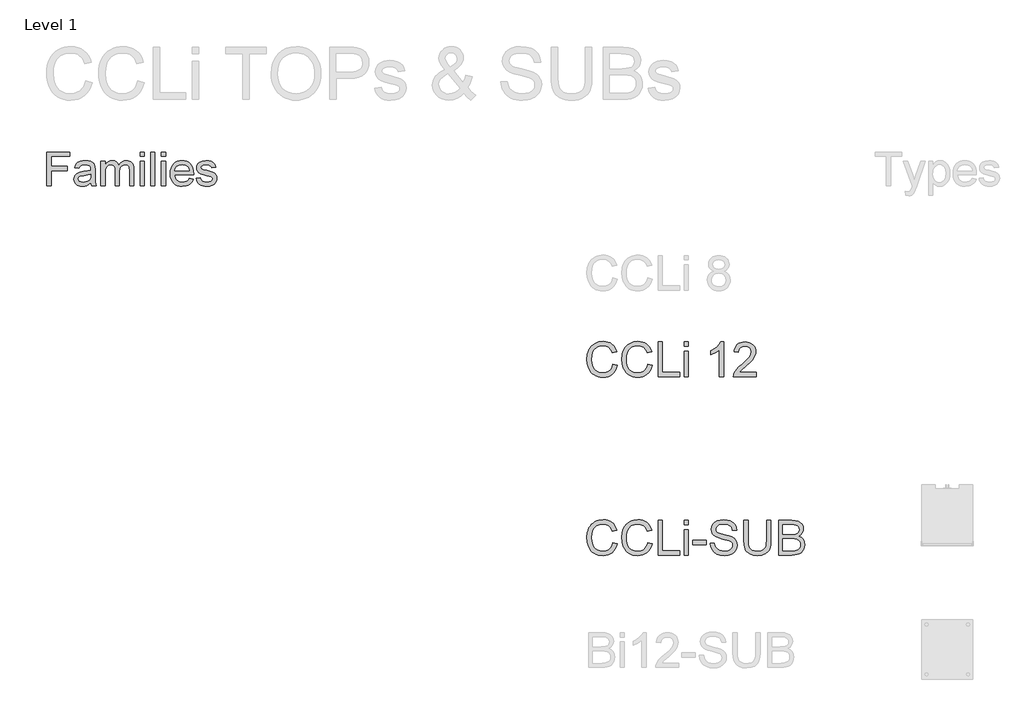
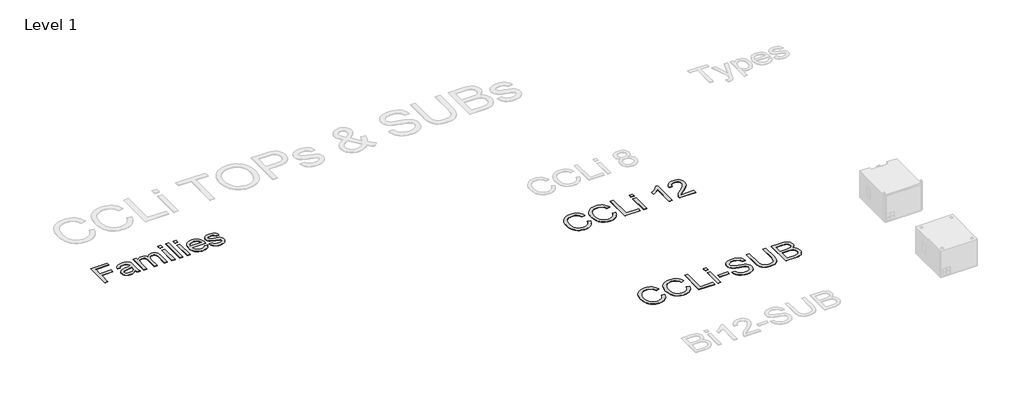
# One storey, part 29 of 31: 3 proxies.
"""IFC4 building model written with IfcOpenShell, lengths in millimetres."""

from ifc_helpers import new_model, si_unit, origin, origin_with_axes, place, context, project, spatial, polyline, outline, extrude, element, save

model = new_model("IFC4")

# Units and contexts
model_context = context("Model", 3, world=origin())
ifc_project = project(units=[si_unit("LENGTHUNIT", "METRE", prefix="MILLI")], contexts=[model_context])

# Site, building, storey
site = spatial("IfcSite", under=ifc_project)
building = spatial("IfcBuilding", under=site)
storey = spatial("IfcBuildingStorey", under=building, Name="Level 1", Elevation=0.0)

# Proxies
placement = place(None, origin())
element("IfcBuildingElementProxy", 1, Name="400mm Arial", ObjectType="400mm Arial", at=placement, inside=storey, context=model_context, shape_type="SweptSolid", body=[
    extrude(outline(polyline([(1556.1023034, 17351.3054836), (1556.1023034, 17743.0630593), (1819.3144246, 17743.0630593), (1819.3144246, 17694.0933624), (1605.0720003, 17694.0933624), (1605.0720003, 17577.7903321), (1788.708364, 17577.7903321), (1788.708364, 17528.8206351), (1605.0720003, 17528.8206351), (1605.0720003, 17351.3054836), (1556.1023034, 17351.3054836)])), origin_with_axes(), (0.0, 0.0, 1.0), 5.0),
    extrude(outline(polyline([(2064.1629094, 17388.0327563), (2040.7660107, 17367.97144), (2016.6756935, 17354.8443093), (1991.3420051, 17347.5992809), (1964.2149928, 17345.1842715), (1942.4111634, 17346.6368638), (1923.2913422, 17350.9946408), (1906.855529, 17358.2576024), (1893.1037238, 17368.4257487), (1882.2451478, 17380.8534831), (1874.4890221, 17394.895209), (1869.8353467, 17410.5509263), (1868.2841215, 17427.8206351), (1870.6273981, 17448.1210612), (1877.6572276, 17466.5564305), (1888.5008592, 17482.3376805), (1902.285542, 17494.6757487), (1936.5738943, 17510.7439305), (1978.9441594, 17518.1085139), (2029.0137617, 17525.855673), (2063.8759776, 17534.9418472), (2064.1629094, 17545.8452563), (2060.7914606, 17567.6998965), (2050.677114, 17581.9986654), (2028.0573223, 17592.6151427), (1996.5426443, 17596.1539684), (1967.3712428, 17593.7987364), (1946.9990837, 17586.7330404), (1933.1068015, 17573.6656872), (1923.3750306, 17553.3054836), (1874.4053337, 17559.4266957), (1882.9056888, 17586.2069987), (1895.5904662, 17607.2486654), (1913.6432598, 17623.3407582), (1938.2476632, 17635.2723396), (1968.3396376, 17642.660834), (2002.8551443, 17645.1236654), (2035.9599028, 17642.9477658), (2062.2022087, 17636.4200669), (2081.9885486, 17626.6046076), (2095.7254094, 17614.5654268), (2104.8354946, 17599.6808387), (2110.7415079, 17581.3291578), (2113.1326064, 17538.480673), (2113.1326064, 17477.5554836), (2115.6193488, 17392.4801995), (2125.3750306, 17351.3054836), (2076.4053337, 17351.3054836), (2068.5625306, 17368.3301048), (2064.1629094, 17388.0327563)]), holes=[polyline([(2064.1629094, 17485.9721502), (2031.2613943, 17477.8185044), (1985.1610155, 17470.9560518), (1943.0298602, 17463.0176048), (1932.0666736, 17457.5898112), (1923.9488943, 17450.105673), (1918.9275875, 17441.1390536), (1917.2538185, 17431.2638169), (1920.9002437, 17416.7020271), (1931.8395193, 17404.7704457), (1949.8325354, 17396.8080877), (1974.6401821, 17394.1539684), (2000.9422655, 17397.0830641), (2024.1837428, 17405.870351), (2043.0255988, 17418.8181493), (2056.1288185, 17434.228779), (2061.9391878, 17450.105673), (2063.8759776, 17472.103779), (2064.1629094, 17485.9721502)])]), origin_with_axes(), (0.0, 0.0, 1.0), 5.0),
    extrude(outline(polyline([(2180.4659397, 17351.3054836), (2180.4659397, 17639.0024533), (2229.4356367, 17639.0024533), (2229.4356367, 17591.6587033), (2244.1648034, 17613.405744), (2263.1023034, 17630.4423207), (2285.6025401, 17641.4533292), (2311.019917, 17645.1236654), (2338.2545287, 17641.3815963), (2360.0852579, 17630.1553889), (2376.3925496, 17612.1862838), (2387.0568488, 17588.2155215), (2404.906399, 17613.1128344), (2425.2666026, 17630.8966294), (2448.1374596, 17641.5669064), (2473.51897, 17645.1236654), (2493.1229887, 17643.6441732), (2510.3299312, 17639.2056966), (2525.1397974, 17631.8082357), (2537.5525875, 17621.4517904), (2547.3650579, 17608.0168058), (2554.3739653, 17591.3837269), (2558.5793098, 17571.5525539), (2559.9810912, 17548.5232866), (2559.9810912, 17351.3054836), (2511.0113943, 17351.3054836), (2511.0113943, 17527.4816199), (2506.4683071, 17568.369404), (2500.0840742, 17579.6434334), (2490.0175496, 17588.5024533), (2477.0697513, 17594.2410896), (2462.0416973, 17596.1539684), (2435.5124596, 17591.2522165), (2413.8849738, 17576.5469608), (2405.495207, 17565.2669537), (2399.5025164, 17551.03394), (2394.708364, 17513.7088927), (2394.708364, 17351.3054836), (2345.738667, 17351.3054836), (2345.738667, 17532.9333245), (2342.9052153, 17560.6222449), (2334.4048602, 17580.3727184), (2319.4485392, 17592.2086559), (2297.2471897, 17596.1539684), (2278.3814227, 17593.5237601), (2260.9981367, 17585.6331351), (2246.6515458, 17572.6733813), (2236.895864, 17554.8357866), (2231.3006935, 17530.0879173), (2229.4356367, 17496.3973396), (2229.4356367, 17351.3054836), (2180.4659397, 17351.3054836)])), origin_with_axes(), (0.0, 0.0, 1.0), 5.0),
    extrude(outline(polyline([(2633.4356367, 17694.0933624), (2633.4356367, 17743.0630593), (2682.4053337, 17743.0630593), (2682.4053337, 17694.0933624), (2633.4356367, 17694.0933624)])), origin_with_axes(), (0.0, 0.0, 1.0), 5.0),
    extrude(outline(polyline([(2633.4356367, 17351.3054836), (2633.4356367, 17639.0024533), (2682.4053337, 17639.0024533), (2682.4053337, 17351.3054836), (2633.4356367, 17351.3054836)])), origin_with_axes(), (0.0, 0.0, 1.0), 5.0),
    extrude(outline(polyline([(2755.8598791, 17351.3054836), (2755.8598791, 17743.0630593), (2804.8295761, 17743.0630593), (2804.8295761, 17351.3054836), (2755.8598791, 17351.3054836)])), origin_with_axes(), (0.0, 0.0, 1.0), 5.0),
    extrude(outline(polyline([(2878.2841215, 17694.0933624), (2878.2841215, 17743.0630593), (2927.2538185, 17743.0630593), (2927.2538185, 17694.0933624), (2878.2841215, 17694.0933624)])), origin_with_axes(), (0.0, 0.0, 1.0), 5.0),
    extrude(outline(polyline([(2878.2841215, 17351.3054836), (2878.2841215, 17639.0024533), (2927.2538185, 17639.0024533), (2927.2538185, 17351.3054836), (2878.2841215, 17351.3054836)])), origin_with_axes(), (0.0, 0.0, 1.0), 5.0),
    extrude(outline(polyline([(3202.1345003, 17437.0024533), (3250.1477579, 17430.8812411), (3242.7861634, 17411.6508316), (3232.8481604, 17394.7039211), (3220.3337487, 17380.0405096), (3205.2429284, 17367.6605972), (3187.7311208, 17357.8272047), (3167.9537475, 17350.8033529), (3121.6023034, 17345.1842715), (3091.2174194, 17347.6082475), (3064.1442068, 17354.8801758), (3040.3826656, 17367.0000563), (3019.9327958, 17383.9678889), (3003.488016, 17405.3114317), (2991.7417446, 17430.5584429), (2984.6939819, 17459.7089223), (2982.3447276, 17492.7628699), (2984.7178929, 17526.937645), (2991.8373886, 17557.0595082), (3003.7032148, 17583.1284594), (3020.3153715, 17605.1444987), (3040.7114416, 17622.6353841), (3063.9290079, 17635.1288737), (3089.9680704, 17642.6249675), (3118.8286291, 17645.1236654), (3146.7596483, 17642.6309452), (3172.0186149, 17635.1527847), (3194.605529, 17622.6891839), (3214.5203905, 17605.2401427), (3230.7768713, 17583.2719253), (3242.3886433, 17557.2507961), (3249.3557065, 17527.1767549), (3251.6780609, 17493.0498018), (3251.3911291, 17479.8509381), (3031.3144246, 17479.8509381), (3034.1508652, 17460.3096858), (3039.7908687, 17443.1953983), (3048.2344352, 17428.5080759), (3059.4815647, 17416.2477184), (3087.8997702, 17399.6774059), (3122.5587428, 17394.1539684), (3148.6217162, 17396.7124438), (3170.5720003, 17404.3878699), (3188.409595, 17417.6584665), (3202.1345003, 17437.0024533)]), holes=[polyline([(3031.3144246, 17528.8206351), (3202.708364, 17528.8206351), (3196.0850212, 17554.6923207), (3183.1013564, 17573.199423), (3169.7470714, 17583.2420366), (3154.5516405, 17590.4153321), (3118.6373412, 17596.1539684), (3085.6282267, 17591.5750148), (3058.3338375, 17577.838154), (3039.360471, 17556.4258671), (3031.3144246, 17528.8206351)])]), origin_with_axes(), (0.0, 0.0, 1.0), 5.0),
    extrude(outline(polyline([(3282.2841215, 17437.0024533), (3331.2538185, 17443.1236654), (3338.9770666, 17422.1776427), (3353.9214321, 17406.7789684), (3376.182559, 17397.3102184), (3405.8560912, 17394.1539684), (3435.1709587, 17397.0471976), (3455.7822276, 17405.7268851), (3467.9768299, 17418.3040631), (3472.0416973, 17432.8897639), (3467.9529189, 17445.371298), (3455.6865837, 17454.8878699), (3405.2822276, 17468.8518851), (3331.5407503, 17492.8106919), (3312.8782267, 17504.8498728), (3299.3565647, 17520.7865442), (3291.1431414, 17539.6044893), (3288.4053337, 17560.2874911), (3290.6051443, 17579.2608576), (3297.2045761, 17596.775654), (3307.6058545, 17612.1384618), (3321.2112049, 17624.6558624), (3352.3433071, 17639.1459192), (3394.4744625, 17645.1236654), (3426.3478053, 17642.7206114), (3454.0606367, 17635.5114495), (3476.3456746, 17624.2015536), (3491.9356367, 17609.496298), (3502.2651821, 17590.3077326), (3508.76897, 17565.5479078), (3459.7992731, 17559.4266957), (3453.6182835, 17574.8373254), (3441.3878147, 17586.4461086), (3422.9883119, 17593.7270035), (3398.30022, 17596.1539684), (3370.1809018, 17593.8346029), (3351.4346897, 17586.8765063), (3340.8899454, 17576.8338927), (3337.3750306, 17565.260976), (3343.2093109, 17551.010029), (3361.4773034, 17540.2022639), (3403.6562806, 17529.7770745), (3475.5327011, 17506.7268851), (3494.5180231, 17495.7039211), (3508.9124359, 17480.6160896), (3517.9866547, 17461.4155688), (3521.0113943, 17438.0545366), (3517.460613, 17413.9044419), (3506.8082693, 17391.1890063), (3489.4608498, 17371.6895982), (3465.8248412, 17357.1875858), (3437.2751253, 17348.1851), (3405.1865837, 17345.1842715), (3378.8307006, 17346.630886), (3355.8104, 17350.9707298), (3336.1256817, 17358.2038027), (3319.7765458, 17368.3301048), (3306.4222607, 17381.3018141), (3295.722095, 17397.0711086), (3287.6760486, 17415.6379883), (3282.2841215, 17437.0024533)])), origin_with_axes(), (0.0, 0.0, 1.0), 5.0),
])
element("IfcBuildingElementProxy", 2, Name="400mm Arial", ObjectType="400mm Arial", at=placement, inside=storey, context=model_context, shape_type="SweptSolid", body=[
    extrude(outline(polyline([(8103.8257106, 15286.7361061), (8154.0538657, 15273.7866599), (8144.1149204, 15242.5504128), (8130.8773, 15215.2566344), (8114.3410043, 15191.9053248), (8094.5060334, 15172.4964839), (8071.819977, 15157.2385781), (8046.730425, 15146.340074), (8019.2373772, 15139.8009715), (7989.3408337, 15137.6212707), (7958.7115919, 15139.2706083), (7931.0805884, 15144.2186212), (7906.4478231, 15152.4653092), (7884.8132961, 15164.0106725), (7865.8796361, 15178.6830327), (7849.3494718, 15196.3107117), (7835.2228032, 15216.8937093), (7823.4996303, 15240.4320256), (7807.7174927, 15292.3033869), (7802.4567802, 15347.8535682), (7808.4042057, 15406.4449073), (7815.8384877, 15432.7423386), (7826.2464825, 15457.0409444), (7839.3951982, 15478.9391202), (7855.0516427, 15498.0352614), (7873.2158162, 15514.3293681), (7893.8877187, 15527.8214403), (7916.3653086, 15538.4011133), (7939.9465445, 15545.9580226), (7990.4199542, 15552.0035501), (8019.1484724, 15550.0476441), (8045.4918889, 15544.1799263), (8069.4502038, 15534.4003966), (8091.0234172, 15520.709055), (8109.8559096, 15503.4676522), (8125.592062, 15483.0379387), (8138.2318742, 15459.4199146), (8147.7753463, 15432.6135799), (8097.5471912, 15420.6451523), (8080.1341101, 15457.2739363), (8056.3444078, 15482.4002766), (8025.8837786, 15496.9316154), (7988.4579169, 15501.775395), (7945.3176216, 15496.4043179), (7926.6353476, 15489.6904715), (7909.8783227, 15480.2910865), (7882.9861489, 15455.127958), (7865.4872287, 15422.6071896), (7855.8855086, 15385.8435156), (7852.6849352, 15347.9516701), (7856.4741198, 15301.5494878), (7867.8416734, 15261.4258248), (7887.2167918, 15229.1135229), (7915.0286707, 15206.1454237), (7948.3710422, 15192.4234253), (7984.3376386, 15187.8494258), (8006.1745007, 15189.4067929), (8026.2639233, 15194.0788942), (8044.6059064, 15201.8657298), (8061.2004501, 15212.7672996), (8075.6551468, 15226.7345527), (8087.5775892, 15243.7184381), (8096.9677771, 15263.7189559), (8103.8257106, 15286.7361061)])), origin_with_axes(), (0.0, 0.0, 1.0), 5.0),
    extrude(outline(polyline([(8505.6509512, 15286.7361061), (8555.8791063, 15273.7866599), (8545.940161, 15242.5504128), (8532.7025406, 15215.2566344), (8516.1662449, 15191.9053248), (8496.331274, 15172.4964839), (8473.6452176, 15157.2385781), (8448.5556656, 15146.340074), (8421.0626178, 15139.8009715), (8391.1660743, 15137.6212707), (8360.5368325, 15139.2706083), (8332.905829, 15144.2186212), (8308.2730637, 15152.4653092), (8286.6385367, 15164.0106725), (8267.7048767, 15178.6830327), (8251.1747124, 15196.3107117), (8237.0480438, 15216.8937093), (8225.3248709, 15240.4320256), (8209.5427333, 15292.3033869), (8204.2820208, 15347.8535682), (8210.2294463, 15406.4449073), (8217.6637283, 15432.7423386), (8228.0717231, 15457.0409444), (8241.2204388, 15478.9391202), (8256.8768833, 15498.0352614), (8275.0410568, 15514.3293681), (8295.7129593, 15527.8214403), (8318.1905492, 15538.4011133), (8341.7717851, 15545.9580226), (8392.2451948, 15552.0035501), (8420.973713, 15550.0476441), (8447.3171295, 15544.1799263), (8471.2754444, 15534.4003966), (8492.8486578, 15520.709055), (8511.6811502, 15503.4676522), (8527.4173026, 15483.0379387), (8540.0571148, 15459.4199146), (8549.6005869, 15432.6135799), (8499.3724318, 15420.6451523), (8481.9593507, 15457.2739363), (8458.1696484, 15482.4002766), (8427.7090192, 15496.9316154), (8390.2831575, 15501.775395), (8347.1428622, 15496.4043179), (8328.4605882, 15489.6904715), (8311.7035633, 15480.2910865), (8284.8113895, 15455.127958), (8267.3124693, 15422.6071896), (8257.7107492, 15385.8435156), (8254.5101758, 15347.9516701), (8258.2993604, 15301.5494878), (8269.666914, 15261.4258248), (8289.0420324, 15229.1135229), (8316.8539113, 15206.1454237), (8350.1962828, 15192.4234253), (8386.1628792, 15187.8494258), (8407.9997413, 15189.4067929), (8428.0891639, 15194.0788942), (8446.431147, 15201.8657298), (8463.0256907, 15212.7672996), (8477.4803874, 15226.7345527), (8489.4028297, 15243.7184381), (8498.7930177, 15263.7189559), (8505.6509512, 15286.7361061)])), origin_with_axes(), (0.0, 0.0, 1.0), 5.0),
    extrude(outline(polyline([(8624.9428195, 15143.8997901), (8624.9428195, 15545.7250307), (8675.1709746, 15545.7250307), (8675.1709746, 15194.1279452), (8876.0835949, 15194.1279452), (8876.0835949, 15143.8997901), (8624.9428195, 15143.8997901)])), origin_with_axes(), (0.0, 0.0, 1.0), 5.0),
    extrude(outline(polyline([(8926.31175, 15143.8997901), (8926.31175, 15438.9902012), (8976.539905, 15438.9902012), (8976.539905, 15143.8997901), (8926.31175, 15143.8997901)])), origin_with_axes(), (0.0, 0.0, 1.0), 5.0),
    extrude(outline(polyline([(8926.31175, 15495.4968756), (8926.31175, 15545.7250307), (8976.539905, 15545.7250307), (8976.539905, 15495.4968756), (8926.31175, 15495.4968756)])), origin_with_axes(), (0.0, 0.0, 1.0), 5.0),
    extrude(outline(polyline([(9384.643665, 15143.8997901), (9334.4155099, 15143.8997901), (9334.4155099, 15457.0409444), (9313.4462362, 15440.0815844), (9286.8361052, 15423.1467499), (9233.9591998, 15397.7874177), (9233.9591998, 15445.2687205), (9273.4084124, 15466.7285036), (9307.5846498, 15492.2595141), (9334.5258745, 15519.4092053), (9352.2700494, 15545.7250307), (9384.643665, 15545.7250307), (9384.643665, 15143.8997901)])), origin_with_axes(), (0.0, 0.0, 1.0), 5.0),
    extrude(outline(polyline([(9761.3548281, 15194.1279452), (9761.3548281, 15143.8997901), (9497.6570139, 15143.8997901), (9498.7606599, 15161.5826513), (9503.0526165, 15178.5297486), (9515.4502398, 15205.5936007), (9533.6113476, 15231.8481124), (9559.8658593, 15259.3288974), (9596.5436942, 15290.0715695), (9650.7327121, 15338.2150599), (9683.2166923, 15373.7524607), (9699.4402883, 15402.5944091), (9704.8481536, 15430.6515426), (9699.7345939, 15455.8024083), (9684.3939147, 15476.7103684), (9660.8126788, 15490.8002488), (9630.977449, 15495.4968756), (9599.6461657, 15490.9106134), (9575.3046404, 15477.1518268), (9559.5960792, 15455.2996363), (9554.1636884, 15426.4331624), (9503.9355333, 15432.7116818), (9508.2550811, 15458.6412311), (9516.1124274, 15481.2966306), (9527.5075722, 15500.6778804), (9542.4405155, 15516.7849804), (9560.5679008, 15529.4462524), (9581.5463716, 15538.4900181), (9605.3759278, 15543.9162775), (9632.0565695, 15545.7250307), (9658.9763345, 15543.7139425), (9682.9346494, 15537.6806777), (9703.9315143, 15527.6252365), (9721.9669291, 15513.5476188), (9736.4522827, 15496.490157), (9746.7989638, 15477.4951833), (9753.0069725, 15456.5626978), (9755.0763087, 15433.6927004), (9752.8444913, 15409.6700061), (9746.1490389, 15386.0642448), (9734.2664505, 15362.0538132), (9716.4732247, 15336.8171084), (9688.1095228, 15306.687573), (9644.5155064, 15267.9986498), (9586.7335077, 15219.6834811), (9564.0719768, 15194.1279452), (9761.3548281, 15194.1279452)])), origin_with_axes(), (0.0, 0.0, 1.0), 5.0),
])
element("IfcBuildingElementProxy", 3, Name="400mm Arial", ObjectType="400mm Arial", at=placement, inside=storey, context=model_context, shape_type="SweptSolid", body=[
    extrude(outline(polyline([(8103.8257106, 13223.865622), (8154.0538657, 13210.9161757), (8144.1149204, 13179.6799287), (8130.8773, 13152.3861503), (8114.3410043, 13129.0348407), (8094.5060334, 13109.6259997), (8071.819977, 13094.368094), (8046.730425, 13083.4695899), (8019.2373772, 13076.9304874), (7989.3408337, 13074.7507866), (7958.7115919, 13076.4001242), (7931.0805884, 13081.348137), (7906.4478231, 13089.5948251), (7884.8132961, 13101.1401884), (7865.8796361, 13115.8125486), (7849.3494718, 13133.4402275), (7835.2228032, 13154.0232252), (7823.4996303, 13177.5615415), (7807.7174927, 13229.4329028), (7802.4567802, 13284.9830841), (7808.4042057, 13343.5744232), (7815.8384877, 13369.8718545), (7826.2464825, 13394.1704603), (7839.3951982, 13416.068636), (7855.0516427, 13435.1647773), (7873.2158162, 13451.458884), (7893.8877187, 13464.9509561), (7916.3653086, 13475.5306292), (7939.9465445, 13483.0875385), (7990.4199542, 13489.133066), (8019.1484724, 13487.17716), (8045.4918889, 13481.3094422), (8069.4502038, 13471.5299125), (8091.0234172, 13457.8385709), (8109.8559096, 13440.5971681), (8125.592062, 13420.1674546), (8138.2318742, 13396.5494305), (8147.7753463, 13369.7430958), (8097.5471912, 13357.7746682), (8080.1341101, 13394.4034522), (8056.3444078, 13419.5297925), (8025.8837786, 13434.0611313), (7988.4579169, 13438.9049109), (7945.3176216, 13433.5338337), (7926.6353476, 13426.8199873), (7909.8783227, 13417.4206024), (7882.9861489, 13392.2574739), (7865.4872287, 13359.7367055), (7855.8855086, 13322.9730315), (7852.6849352, 13285.081186), (7856.4741198, 13238.6790036), (7867.8416734, 13198.5553407), (7887.2167918, 13166.2430388), (7915.0286707, 13143.2749396), (7948.3710422, 13129.5529411), (7984.3376386, 13124.9789417), (8006.1745007, 13126.5363088), (8026.2639233, 13131.2084101), (8044.6059064, 13138.9952457), (8061.2004501, 13149.8968155), (8075.6551468, 13163.8640685), (8087.5775892, 13180.847954), (8096.9677771, 13200.8484718), (8103.8257106, 13223.865622)])), origin_with_axes(), (0.0, 0.0, 1.0), 5.0),
    extrude(outline(polyline([(8505.6509512, 13223.865622), (8555.8791063, 13210.9161757), (8545.940161, 13179.6799287), (8532.7025406, 13152.3861503), (8516.1662449, 13129.0348407), (8496.331274, 13109.6259997), (8473.6452176, 13094.368094), (8448.5556656, 13083.4695899), (8421.0626178, 13076.9304874), (8391.1660743, 13074.7507866), (8360.5368325, 13076.4001242), (8332.905829, 13081.348137), (8308.2730637, 13089.5948251), (8286.6385367, 13101.1401884), (8267.7048767, 13115.8125486), (8251.1747124, 13133.4402275), (8237.0480438, 13154.0232252), (8225.3248709, 13177.5615415), (8209.5427333, 13229.4329028), (8204.2820208, 13284.9830841), (8210.2294463, 13343.5744232), (8217.6637283, 13369.8718545), (8228.0717231, 13394.1704603), (8241.2204388, 13416.068636), (8256.8768833, 13435.1647773), (8275.0410568, 13451.458884), (8295.7129593, 13464.9509561), (8318.1905492, 13475.5306292), (8341.7717851, 13483.0875385), (8392.2451948, 13489.133066), (8420.973713, 13487.17716), (8447.3171295, 13481.3094422), (8471.2754444, 13471.5299125), (8492.8486578, 13457.8385709), (8511.6811502, 13440.5971681), (8527.4173026, 13420.1674546), (8540.0571148, 13396.5494305), (8549.6005869, 13369.7430958), (8499.3724318, 13357.7746682), (8481.9593507, 13394.4034522), (8458.1696484, 13419.5297925), (8427.7090192, 13434.0611313), (8390.2831575, 13438.9049109), (8347.1428622, 13433.5338337), (8328.4605882, 13426.8199873), (8311.7035633, 13417.4206024), (8284.8113895, 13392.2574739), (8267.3124693, 13359.7367055), (8257.7107492, 13322.9730315), (8254.5101758, 13285.081186), (8258.2993604, 13238.6790036), (8269.666914, 13198.5553407), (8289.0420324, 13166.2430388), (8316.8539113, 13143.2749396), (8350.1962828, 13129.5529411), (8386.1628792, 13124.9789417), (8407.9997413, 13126.5363088), (8428.0891639, 13131.2084101), (8446.431147, 13138.9952457), (8463.0256907, 13149.8968155), (8477.4803874, 13163.8640685), (8489.4028297, 13180.847954), (8498.7930177, 13200.8484718), (8505.6509512, 13223.865622)])), origin_with_axes(), (0.0, 0.0, 1.0), 5.0),
    extrude(outline(polyline([(8624.9428195, 13081.029306), (8624.9428195, 13482.8545466), (8675.1709746, 13482.8545466), (8675.1709746, 13131.257461), (8876.0835949, 13131.257461), (8876.0835949, 13081.029306), (8624.9428195, 13081.029306)])), origin_with_axes(), (0.0, 0.0, 1.0), 5.0),
    extrude(outline(polyline([(8926.31175, 13081.029306), (8926.31175, 13376.119717), (8976.539905, 13376.119717), (8976.539905, 13081.029306), (8926.31175, 13081.029306)])), origin_with_axes(), (0.0, 0.0, 1.0), 5.0),
    extrude(outline(polyline([(8926.31175, 13432.6263915), (8926.31175, 13482.8545466), (8976.539905, 13482.8545466), (8976.539905, 13432.6263915), (8926.31175, 13432.6263915)])), origin_with_axes(), (0.0, 0.0, 1.0), 5.0),
    extrude(outline(polyline([(9026.7680601, 13200.3211743), (9026.7680601, 13250.5493293), (9183.7310447, 13250.5493293), (9183.7310447, 13200.3211743), (9026.7680601, 13200.3211743)])), origin_with_axes(), (0.0, 0.0, 1.0), 5.0),
    extrude(outline(polyline([(9227.6806804, 13219.1567324), (9277.9088355, 13219.1567324), (9283.6723201, 13191.2835399), (9294.0956433, 13168.8795264), (9310.3560275, 13151.0985633), (9333.630695, 13137.094522), (9362.080236, 13128.0078368), (9393.8652404, 13124.9789417), (9421.8487975, 13127.2720728), (9446.3497383, 13134.1514661), (9466.2031033, 13145.0407731), (9480.2439328, 13159.3636455), (9488.5948541, 13175.8079707), (9491.3784945, 13193.0616362), (9489.2938299, 13209.8738434), (9483.039836, 13224.4051822), (9470.3356444, 13236.8028055), (9448.9003868, 13247.2138659), (9375.7654462, 13266.3927806), (9327.7568458, 13279.0847094), (9297.0386992, 13291.1635016), (9272.0349863, 13308.0615479), (9254.3153369, 13328.5403123), (9243.7571236, 13352.1583364), (9240.2377192, 13378.4741618), (9244.5909894, 13407.8924587), (9257.6508003, 13435.3241928), (9279.0737951, 13458.5743349), (9308.5166175, 13475.4478557), (9343.8578145, 13485.7117634), (9382.9759333, 13489.133066), (9425.3559391, 13485.5523479), (9462.4384443, 13474.8101936), (9492.8990735, 13457.1273324), (9515.4134516, 13432.7244934), (9529.6627475, 13403.1222555), (9535.3281302, 13369.8411976), (9485.0999752, 13369.8411976), (9475.8783998, 13399.8113175), (9467.5152158, 13411.6693805), (9456.6504342, 13421.4427788), (9426.6067379, 13434.5393779), (9384.9379706, 13438.9049109), (9342.2881846, 13434.5884288), (9325.9848809, 13429.1928262), (9313.0293033, 13421.6389826), (9296.1067315, 13402.5826952), (9290.4658742, 13379.9456898), (9294.4635253, 13360.6441478), (9306.4564783, 13345.1195276), (9334.8079174, 13331.2381136), (9388.4696378, 13317.0623941), (9443.8481408, 13303.5979131), (9477.3499278, 13291.8502147), (9505.9834098, 13273.6277932), (9525.9594021, 13251.1379405), (9537.6948377, 13224.6259114), (9541.6066496, 13194.3369605), (9537.1062265, 13163.3735592), (9523.6049573, 13134.2495679), (9501.6546649, 13109.1845413), (9471.8071724, 13090.3980341), (9435.9141524, 13078.6625985), (9395.8272777, 13074.7507866), (9346.6169294, 13078.9691668), (9306.1131218, 13091.6243074), (9273.8498708, 13112.7652594), (9249.3611927, 13142.4410737), (9233.6403687, 13178.5916111), (9227.6806804, 13219.1567324)])), origin_with_axes(), (0.0, 0.0, 1.0), 5.0),
    extrude(outline(polyline([(9880.6466964, 13482.8545466), (9930.8748515, 13482.8545466), (9930.8748515, 13251.0398387), (9927.4658116, 13196.7527189), (9917.2386922, 13154.9490615), (9909.0533178, 13137.9958329), (9898.1333539, 13122.6980733), (9868.0896576, 13097.068961), (9848.9475311, 13087.3047597), (9827.0340269, 13080.3303302), (9774.8928855, 13074.7507866), (9723.8921782, 13079.6068289), (9683.1185904, 13094.1749559), (9666.5639006, 13104.9753582), (9652.5598594, 13117.9523956), (9641.1064666, 13133.1060681), (9632.2037223, 13150.4363757), (9620.7625922, 13194.0058667), (9616.9488822, 13251.0398387), (9616.9488822, 13482.8545466), (9667.1770373, 13482.8545466), (9667.1770373, 13252.8056722), (9669.6541094, 13207.6665514), (9677.0853257, 13176.2371663), (9690.5498067, 13154.4708149), (9711.126673, 13138.3207954), (9737.9575332, 13128.3144051), (9770.183996, 13124.9789417), (9797.8671161, 13126.6282793), (9821.2705424, 13131.5762921), (9840.3942747, 13139.8229802), (9855.2383132, 13151.3683434), (9866.3544809, 13167.6042022), (9874.2946006, 13189.9223765), (9879.0586724, 13218.3228666), (9880.6466964, 13252.8056722), (9880.6466964, 13482.8545466)])), origin_with_axes(), (0.0, 0.0, 1.0), 5.0),
    extrude(outline(polyline([(10018.7741228, 13081.029306), (10018.7741228, 13482.8545466), (10172.1073384, 13482.8545466), (10214.2788778, 13479.8992279), (10247.2043164, 13471.0332718), (10272.4410212, 13456.0359491), (10291.5463595, 13434.6865307), (10303.5761008, 13409.5724531), (10307.5860145, 13383.2811532), (10304.2137629, 13359.0867807), (10294.097008, 13336.3394106), (10277.1621735, 13316.4369947), (10253.335683, 13300.7774844), (10281.7974866, 13285.9150518), (10302.828074, 13263.3025718), (10315.8143085, 13234.436098), (10320.1430533, 13200.8116836), (10317.1877346, 13172.7913383), (10308.3217785, 13146.8066067), (10295.0902894, 13124.7091615), (10279.0383717, 13108.3506755), (10259.3812104, 13096.5048752), (10235.3339907, 13087.9454875), (10206.1118975, 13082.7583513), (10170.930116, 13081.029306), (10018.7741228, 13081.029306)]), holes=[polyline([(10069.0022779, 13131.257461), (10172.0092366, 13131.257461), (10209.2879454, 13133.2194984), (10240.8276951, 13144.1578563), (10252.4037152, 13153.5878982), (10261.7233924, 13166.4760307), (10267.8670218, 13182.2459056), (10269.9148982, 13200.3211743), (10267.5114025, 13221.3149735), (10260.3009154, 13239.3657167), (10247.7070884, 13253.4801226), (10229.1535731, 13262.6649097), (10202.874536, 13267.7048931), (10167.1041433, 13269.3848875), (10069.0022779, 13269.3848875), (10069.0022779, 13131.257461)]), polyline([(10069.0022779, 13319.6130426), (10160.727522, 13319.6130426), (10214.2911405, 13323.9295247), (10233.0408596, 13331.3730037), (10246.5176033, 13342.5198281), (10254.6477954, 13357.1983197), (10257.3578594, 13375.2368002), (10254.8317364, 13392.7479832), (10247.2533673, 13408.0028233), (10234.9661087, 13419.9099372), (10218.313317, 13427.3779417), (10192.7577811, 13431.314279), (10153.7622896, 13432.6263915), (10069.0022779, 13432.6263915), (10069.0022779, 13319.6130426)])]), origin_with_axes(), (0.0, 0.0, 1.0), 5.0),
])

save(model, "model.ifc")
